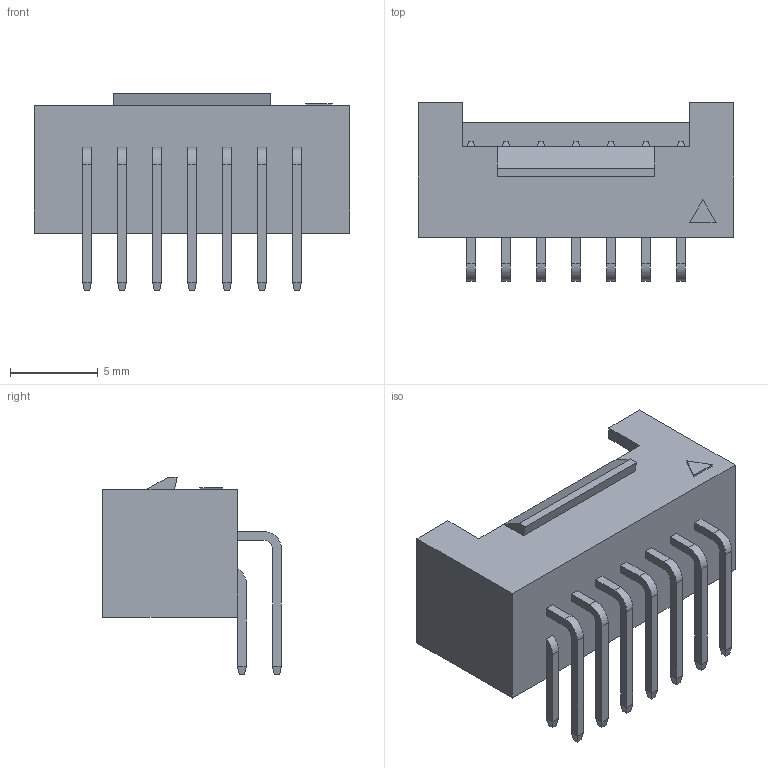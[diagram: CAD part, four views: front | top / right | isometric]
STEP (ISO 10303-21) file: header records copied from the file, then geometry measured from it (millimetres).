
FILE_DESCRIPTION (( 'STEP AP214' ), '1' );
FILE_NAME ('HC-PHB-2x7AWC-05 (2.0 邧齬 俔渀-HCTL).STEP', '2025-02-07T07:18:13', ( '' ), ( '' ), 'SwSTEP 2.0', 'SolidWorks 2022', '' );
FILE_SCHEMA (( 'AUTOMOTIVE_DESIGN' ));
Length unit declared in the file: millimetre
Products named in the file (1): HC-PHB-2x7AWC-05 (2.0 邧齬 俔渀-HCTL)
Bounding box: 18 x 10.2 x 11.3 mm (x, y, z)
Volume: 542.6 mm3; surface area: 1101 mm2
Topology: 1 solids, 1 shells, 324 faces, 772 edges, 472 vertices
Faces by surface type: plane 303, cylinder 21
Entity records: 12225 total; most frequent: CARTESIAN_POINT 1569, ORIENTED_EDGE 1544, DIRECTION 1464, EDGE_CURVE 772, LINE 730, VECTOR 730, VERTEX_POINT 472, AXIS2_PLACEMENT_3D 367
